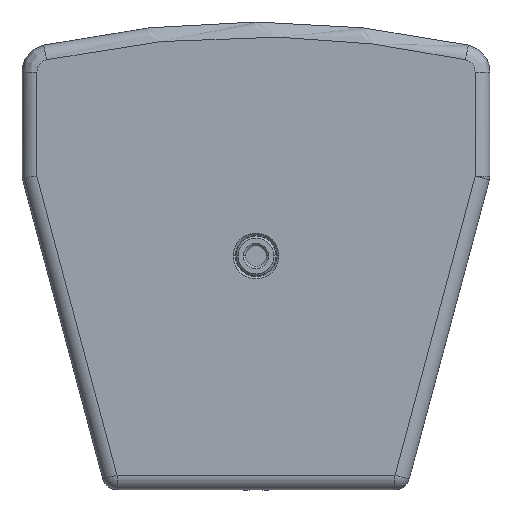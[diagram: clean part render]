
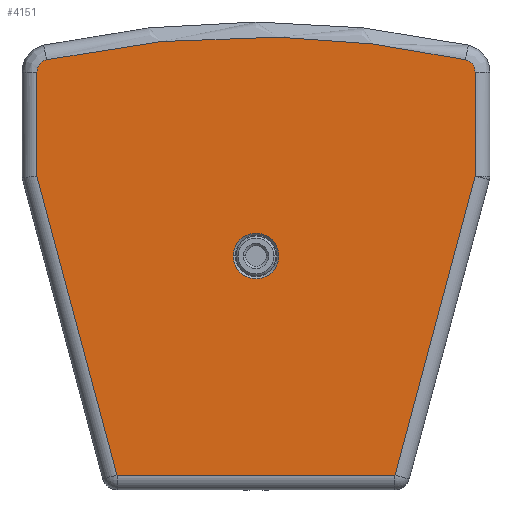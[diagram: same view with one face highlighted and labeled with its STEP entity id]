
A CAD part, front view. The second image highlights one B-rep face of the part: STEP entity #4151.
In plain terms, the highlighted planar face has unit normal (0, -1, 0) as drawn and (0, 0, -1) by its records, which use the part's own axes.
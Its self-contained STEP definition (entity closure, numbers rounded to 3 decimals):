
#2042 = CIRCLE ( 'NONE', #2100, 10. ) ;
#2095 = CARTESIAN_POINT ( 'NONE',  ( 112., 102., -12. ) ) ;
#2096 = CARTESIAN_POINT ( 'NONE',  ( 92., 102., -12. ) ) ;
#2097 = DIRECTION ( 'NONE',  ( -1., 0., 0. ) ) ;
#2098 = DIRECTION ( 'NONE',  ( 0., 0., -1. ) ) ;
#2099 = CARTESIAN_POINT ( 'NONE',  ( 102., 102., -12. ) ) ;
#2100 = AXIS2_PLACEMENT_3D ( 'NONE', #2099, #2098, #2097 ) ;
#3830 = VERTEX_POINT ( 'NONE', #7497 ) ;
#3885 = VERTEX_POINT ( 'NONE', #7565 ) ;
#4002 = VERTEX_POINT ( 'NONE', #7852 ) ;
#4049 = VERTEX_POINT ( 'NONE', #7931 ) ;
#4076 = EDGE_CURVE ( 'NONE', #3885, #3830, #8000, .T. ) ;
#4082 = EDGE_CURVE ( 'NONE', #4049, #3885, #7751, .T. ) ;
#4085 = VERTEX_POINT ( 'NONE', #8046 ) ;
#4092 = EDGE_CURVE ( 'NONE', #3830, #4002, #8035, .T. ) ;
#4098 = VERTEX_POINT ( 'NONE', #8031 ) ;
#4107 = EDGE_CURVE ( 'NONE', #4002, #4085, #8065, .T. ) ;
#4108 = VERTEX_POINT ( 'NONE', #8061 ) ;
#4111 = VERTEX_POINT ( 'NONE', #8056 ) ;
#4116 = EDGE_CURVE ( 'NONE', #4098, #4111, #8047, .T. ) ;
#4129 = EDGE_CURVE ( 'NONE', #4085, #4098, #8079, .T. ) ;
#4131 = EDGE_CURVE ( 'NONE', #4108, #4049, #8088, .T. ) ;
#4136 = EDGE_LOOP ( 'NONE', ( #4139, #4177 ) ) ;
#4139 = ORIENTED_EDGE ( 'NONE', *, *, #4179, .F. ) ;
#4143 = EDGE_CURVE ( 'NONE', #4111, #4108, #8145, .T. ) ;
#4151 = ADVANCED_FACE ( 'NONE', ( #8129, #8128 ), #8127, .F. ) ;
#4158 = ORIENTED_EDGE ( 'NONE', *, *, #4076, .F. ) ;
#4159 = ORIENTED_EDGE ( 'NONE', *, *, #4082, .F. ) ;
#4160 = ORIENTED_EDGE ( 'NONE', *, *, #4092, .F. ) ;
#4161 = ORIENTED_EDGE ( 'NONE', *, *, #4129, .F. ) ;
#4162 = ORIENTED_EDGE ( 'NONE', *, *, #4107, .F. ) ;
#4163 = ORIENTED_EDGE ( 'NONE', *, *, #4131, .F. ) ;
#4164 = ORIENTED_EDGE ( 'NONE', *, *, #4116, .F. ) ;
#4165 = EDGE_LOOP ( 'NONE', ( #4166, #4164, #4161, #4162, #4160, #4158, #4159, #4163 ) ) ;
#4166 = ORIENTED_EDGE ( 'NONE', *, *, #4143, .F. ) ;
#4177 = ORIENTED_EDGE ( 'NONE', *, *, #6296, .F. ) ;
#4179 = EDGE_CURVE ( 'NONE', #6297, #6299, #8152, .T. ) ;
#6296 = EDGE_CURVE ( 'NONE', #6299, #6297, #2042, .T. ) ;
#6297 = VERTEX_POINT ( 'NONE', #2096 ) ;
#6299 = VERTEX_POINT ( 'NONE', #2095 ) ;
#7497 = CARTESIAN_POINT ( 'NONE',  ( 162.571, 197.5, -12. ) ) ;
#7565 = CARTESIAN_POINT ( 'NONE',  ( 197.5, 67.144, -12. ) ) ;
#7746 = DIRECTION ( 'NONE',  ( 0., 1., 0. ) ) ;
#7747 = VECTOR ( 'NONE', #7746, 1000. ) ;
#7748 = CARTESIAN_POINT ( 'NONE',  ( 197.5, 12.273, -12. ) ) ;
#7751 = LINE ( 'NONE', #7748, #7747 ) ;
#7852 = CARTESIAN_POINT ( 'NONE',  ( 41.429, 197.5, -12. ) ) ;
#7931 = CARTESIAN_POINT ( 'NONE',  ( 197.5, 21.804, -12. ) ) ;
#7997 = DIRECTION ( 'NONE',  ( -0.259, 0.966, 0. ) ) ;
#7998 = VECTOR ( 'NONE', #7997, 1000. ) ;
#7999 = CARTESIAN_POINT ( 'NONE',  ( 197.5, 67.144, -12. ) ) ;
#8000 = LINE ( 'NONE', #7999, #7998 ) ;
#8031 = CARTESIAN_POINT ( 'NONE',  ( 6.5, 21.804, -12. ) ) ;
#8032 = DIRECTION ( 'NONE',  ( -1., 0., 0. ) ) ;
#8033 = VECTOR ( 'NONE', #8032, 1000. ) ;
#8034 = CARTESIAN_POINT ( 'NONE',  ( 204., 197.5, -12. ) ) ;
#8035 = LINE ( 'NONE', #8034, #8033 ) ;
#8046 = CARTESIAN_POINT ( 'NONE',  ( 6.5, 67.144, -12. ) ) ;
#8047 =( BOUNDED_CURVE ( )  B_SPLINE_CURVE ( 3, ( #8083, #8082, #8081, #8080 ),
 .UNSPECIFIED., .F., .F. ) 
 B_SPLINE_CURVE_WITH_KNOTS ( ( 4, 4 ),
 ( 0., 1. ),
 .UNSPECIFIED. ) 
 CURVE ( )  GEOMETRIC_REPRESENTATION_ITEM ( )  RATIONAL_B_SPLINE_CURVE ( ( 1., 0.853, 0.853, 1. ) ) 
 REPRESENTATION_ITEM ( '' )  );
#8056 = CARTESIAN_POINT ( 'NONE',  ( 10.816, 16.433, -12. ) ) ;
#8061 = CARTESIAN_POINT ( 'NONE',  ( 193.184, 16.433, -12. ) ) ;
#8062 = DIRECTION ( 'NONE',  ( -0.259, -0.966, 0. ) ) ;
#8063 = VECTOR ( 'NONE', #8062, 1000. ) ;
#8064 = CARTESIAN_POINT ( 'NONE',  ( 41.429, 197.5, -12. ) ) ;
#8065 = LINE ( 'NONE', #8064, #8063 ) ;
#8075 = DIRECTION ( 'NONE',  ( 0., -1., 0. ) ) ;
#8076 = VECTOR ( 'NONE', #8075, 1000. ) ;
#8077 = CARTESIAN_POINT ( 'NONE',  ( 6.5, 12.273, -12. ) ) ;
#8079 = LINE ( 'NONE', #8077, #8076 ) ;
#8080 = CARTESIAN_POINT ( 'NONE',  ( 10.816, 16.433, -12. ) ) ;
#8081 = CARTESIAN_POINT ( 'NONE',  ( 8.186, 17.013, -12. ) ) ;
#8082 = CARTESIAN_POINT ( 'NONE',  ( 6.5, 19.112, -12. ) ) ;
#8083 = CARTESIAN_POINT ( 'NONE',  ( 6.5, 21.804, -12. ) ) ;
#8084 = CARTESIAN_POINT ( 'NONE',  ( 197.5, 21.804, -12. ) ) ;
#8085 = CARTESIAN_POINT ( 'NONE',  ( 197.5, 19.112, -12. ) ) ;
#8086 = CARTESIAN_POINT ( 'NONE',  ( 195.814, 17.013, -12. ) ) ;
#8087 = CARTESIAN_POINT ( 'NONE',  ( 193.184, 16.433, -12. ) ) ;
#8088 =( BOUNDED_CURVE ( )  B_SPLINE_CURVE ( 3, ( #8087, #8086, #8085, #8084 ),
 .UNSPECIFIED., .F., .T. ) 
 B_SPLINE_CURVE_WITH_KNOTS ( ( 4, 4 ),
 ( 0., 1. ),
 .UNSPECIFIED. ) 
 CURVE ( )  GEOMETRIC_REPRESENTATION_ITEM ( )  RATIONAL_B_SPLINE_CURVE ( ( 1., 0.853, 0.853, 1. ) ) 
 REPRESENTATION_ITEM ( '' )  );
#8126 = AXIS2_PLACEMENT_3D ( 'NONE', #8176, #8175, #8174 ) ;
#8127 = PLANE ( 'NONE',  #8126 ) ;
#8128 = FACE_BOUND ( 'NONE', #4136, .T. ) ;
#8129 = FACE_OUTER_BOUND ( 'NONE', #4165, .T. ) ;
#8140 = CARTESIAN_POINT ( 'NONE',  ( 193.184, 16.433, -12. ) ) ;
#8141 = CARTESIAN_POINT ( 'NONE',  ( 132.878, 3.136, -12. ) ) ;
#8142 = CARTESIAN_POINT ( 'NONE',  ( 71.122, 3.136, -12. ) ) ;
#8143 = CARTESIAN_POINT ( 'NONE',  ( 10.816, 16.433, -12. ) ) ;
#8145 =( BOUNDED_CURVE ( )  B_SPLINE_CURVE ( 3, ( #8143, #8142, #8141, #8140 ),
 .UNSPECIFIED., .F., .T. ) 
 B_SPLINE_CURVE_WITH_KNOTS ( ( 4, 4 ),
 ( 0., 1. ),
 .UNSPECIFIED. ) 
 CURVE ( )  GEOMETRIC_REPRESENTATION_ITEM ( )  RATIONAL_B_SPLINE_CURVE ( ( 1., 0.984, 0.984, 1. ) ) 
 REPRESENTATION_ITEM ( '' )  );
#8148 = DIRECTION ( 'NONE',  ( -1., 0., 0. ) ) ;
#8149 = DIRECTION ( 'NONE',  ( 0., 0., -1. ) ) ;
#8150 = CARTESIAN_POINT ( 'NONE',  ( 102., 102., -12. ) ) ;
#8151 = AXIS2_PLACEMENT_3D ( 'NONE', #8150, #8149, #8148 ) ;
#8152 = CIRCLE ( 'NONE', #8151, 10. ) ;
#8174 = DIRECTION ( 'NONE',  ( 1., 0., 0. ) ) ;
#8175 = DIRECTION ( 'NONE',  ( 0., 0., 1. ) ) ;
#8176 = CARTESIAN_POINT ( 'NONE',  ( 204., 12.273, -12. ) ) ;
